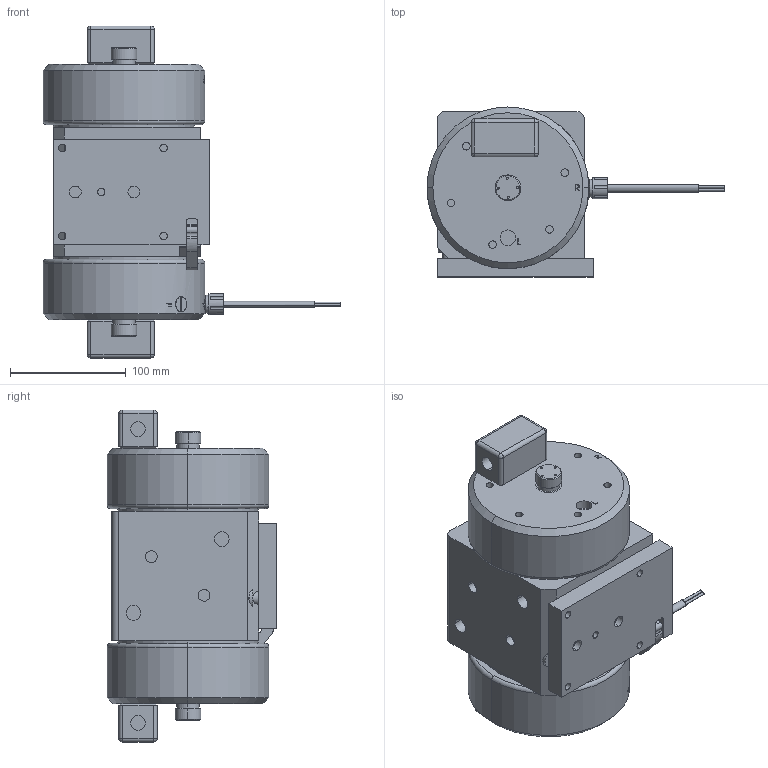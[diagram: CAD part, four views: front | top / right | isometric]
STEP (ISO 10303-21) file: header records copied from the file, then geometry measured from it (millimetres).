
FILE_DESCRIPTION (( 'STEP AP214' ), '1' );
FILE_NAME ('pfa060-solid-model.STEP', '2012-11-20T20:29:08', ( '' ), ( '' ), 'SwSTEP 2.0', 'SolidWorks 2012', '' );
FILE_SCHEMA (( 'AUTOMOTIVE_DESIGN' ));
Length unit declared in the file: inch
Products named in the file (1): pfa060-solid-model
Bounding box: 257.3 x 146.63 x 286.72 mm (x, y, z)
Volume: 3697279.1 mm3; surface area: 198151.7 mm2
Topology: 1 solids, 18 shells, 1196 faces, 2989 edges, 1954 vertices
Faces by surface type: plane 820, cylinder 218, bspline 115, cone 31, sphere 8, torus 4
Entity records: 46537 total; most frequent: CARTESIAN_POINT 13433, ORIENTED_EDGE 5962, DIRECTION 5399, EDGE_CURVE 2981, LINE 2199, VECTOR 2199, VERTEX_POINT 1954, AXIS2_PLACEMENT_3D 1600
